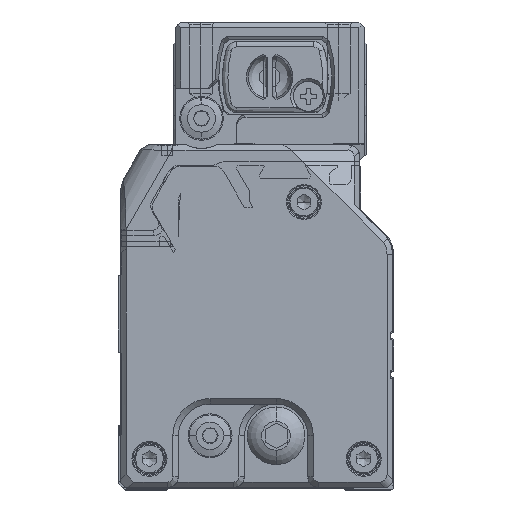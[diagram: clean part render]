
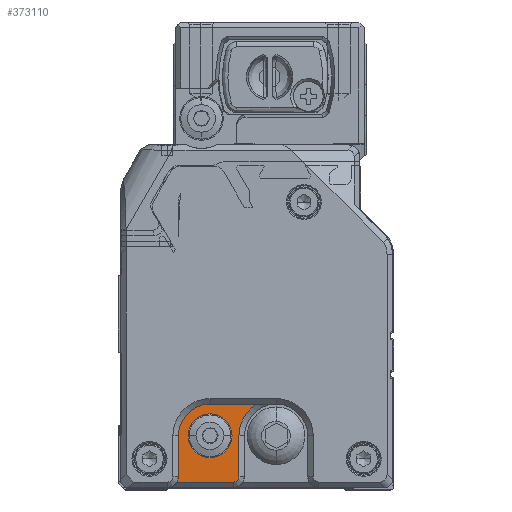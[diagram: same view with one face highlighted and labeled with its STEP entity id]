
A CAD part, left-side view. The second image highlights one B-rep face of the part: STEP entity #373110.
In plain terms, the highlighted planar face has unit normal (-1, 0, 0) as drawn and (1, 0, 0) by its records, which use the part's own axes.
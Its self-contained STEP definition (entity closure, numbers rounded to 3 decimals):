
#371370=CARTESIAN_POINT('',(864.177,8.212,
10.598));
#371380=VERTEX_POINT('',#371370);
#371410=CARTESIAN_POINT('',(864.177,10.212,
10.598));
#371420=DIRECTION('',(-1.,0.,0.));
#371430=DIRECTION('',(0.,1.,0.));
#371440=AXIS2_PLACEMENT_3D('',#371410,#371420,#371430);
#371450=CIRCLE('',#371440,2.);
#371460=CARTESIAN_POINT('',(864.177,8.48,
11.598));
#371470=VERTEX_POINT('',#371460);
#371480=EDGE_CURVE('',#371380,#371470,#371450,.T.);
#371770=CARTESIAN_POINT('',(864.177,8.212,
3.148));
#371780=VERTEX_POINT('',#371770);
#371830=CARTESIAN_POINT('',(864.177,8.212,
3.148));
#371840=DIRECTION('',(0.,0.,1.));
#371850=VECTOR('',#371840,1.);
#371860=LINE('',#371830,#371850);
#371870=EDGE_CURVE('',#371780,#371380,#371860,.T.);
#372110=CARTESIAN_POINT('',(864.177,2.462,
3.148));
#372120=DIRECTION('',(-1.,0.,0.));
#372130=DIRECTION('',(0.,1.,0.));
#372140=AXIS2_PLACEMENT_3D('',#372110,#372120,#372130);
#372150=CIRCLE('',#372140,5.75);
#372160=CARTESIAN_POINT('',(864.177,2.462,
-2.602));
#372170=VERTEX_POINT('',#372160);
#372180=EDGE_CURVE('',#371780,#372170,#372150,.T.);
#372460=CARTESIAN_POINT('',(864.177,-5.938,
-12.8));
#372470=DIRECTION('',(-1.,0.,0.));
#372480=DIRECTION('',(0.,0.,-1.));
#372490=AXIS2_PLACEMENT_3D('',#372460,#372470,#372480);
#372500=PLANE('',#372490);
#372510=CARTESIAN_POINT('',(864.177,4.212,
11.598));
#372520=DIRECTION('',(0.,-1.,0.));
#372530=VECTOR('',#372520,1.);
#372540=LINE('',#372510,#372530);
#372550=CARTESIAN_POINT('',(864.177,-1.788,
11.598));
#372560=VERTEX_POINT('',#372550);
#372570=EDGE_CURVE('',#371470,#372560,#372540,.T.);
#372580=ORIENTED_EDGE('',*,*,#372570,.T.);
#372590=ORIENTED_EDGE('',*,*,#371480,.T.);
#372600=ORIENTED_EDGE('',*,*,#371870,.T.);
#372610=ORIENTED_EDGE('',*,*,#372180,.F.);
#372620=CARTESIAN_POINT('',(864.177,-5.888,
-2.602));
#372630=DIRECTION('',(0.,1.,0.));
#372640=VECTOR('',#372630,1.);
#372650=LINE('',#372620,#372640);
#372660=CARTESIAN_POINT('',(864.177,-6.002,
-2.602));
#372670=VERTEX_POINT('',#372660);
#372680=EDGE_CURVE('',#372670,#372170,#372650,.T.);
#372690=ORIENTED_EDGE('',*,*,#372680,.T.);
#372700=CARTESIAN_POINT('',(864.177,-9.538,
3.148));
#372710=DIRECTION('',(-1.,0.,0.));
#372720=DIRECTION('',(0.,1.,0.));
#372730=AXIS2_PLACEMENT_3D('',#372700,#372710,#372720);
#372740=CIRCLE('',#372730,6.75);
#372750=CARTESIAN_POINT('',(864.177,-2.788,
3.148));
#372760=VERTEX_POINT('',#372750);
#372770=EDGE_CURVE('',#372760,#372670,#372740,.T.);
#372780=ORIENTED_EDGE('',*,*,#372770,.T.);
#372790=CARTESIAN_POINT('',(864.177,-2.788,
6.873));
#372800=DIRECTION('',(0.,0.,-1.));
#372810=VECTOR('',#372800,1.);
#372820=LINE('',#372790,#372810);
#372830=CARTESIAN_POINT('',(864.177,-2.788,
10.598));
#372840=VERTEX_POINT('',#372830);
#372850=EDGE_CURVE('',#372840,#372760,#372820,.T.);
#372860=ORIENTED_EDGE('',*,*,#372850,.T.);
#372870=CARTESIAN_POINT('',(864.177,-1.788,
10.598));
#372880=DIRECTION('',(-1.,0.,0.));
#372890=DIRECTION('',(0.,1.,0.));
#372900=AXIS2_PLACEMENT_3D('',#372870,#372880,#372890);
#372910=CIRCLE('',#372900,1.);
#372920=EDGE_CURVE('',#372840,#372560,#372910,.T.);
#372930=ORIENTED_EDGE('',*,*,#372920,.F.);
#372940=EDGE_LOOP('',(#372930,#372860,#372780,#372690,#372610,#372600,
#372590,#372580));
#372950=FACE_OUTER_BOUND('',#372940,.T.);
#372960=CARTESIAN_POINT('',(864.177,2.462,
3.148));
#372970=DIRECTION('',(-1.,0.,0.));
#372980=DIRECTION('',(0.,0.,-1.));
#372990=AXIS2_PLACEMENT_3D('',#372960,#372970,#372980);
#373000=CIRCLE('',#372990,4.);
#373010=CARTESIAN_POINT('',(864.177,2.462,
-0.852));
#373020=VERTEX_POINT('',#373010);
#373030=CARTESIAN_POINT('',(864.177,2.462,
7.148));
#373040=VERTEX_POINT('',#373030);
#373050=EDGE_CURVE('',#373020,#373040,#373000,.T.);
#373060=ORIENTED_EDGE('',*,*,#373050,.T.);
#373070=EDGE_CURVE('',#373040,#373020,#373000,.T.);
#373080=ORIENTED_EDGE('',*,*,#373070,.T.);
#373090=EDGE_LOOP('',(#373080,#373060));
#373100=FACE_BOUND('',#373090,.T.);
#373110=ADVANCED_FACE('',(#372950,#373100),#372500,.F.);
